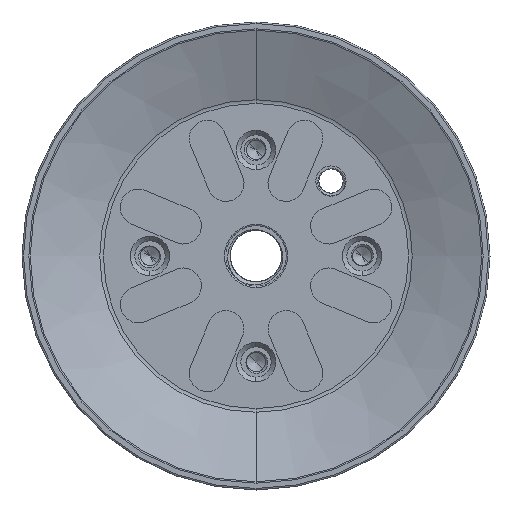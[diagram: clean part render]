
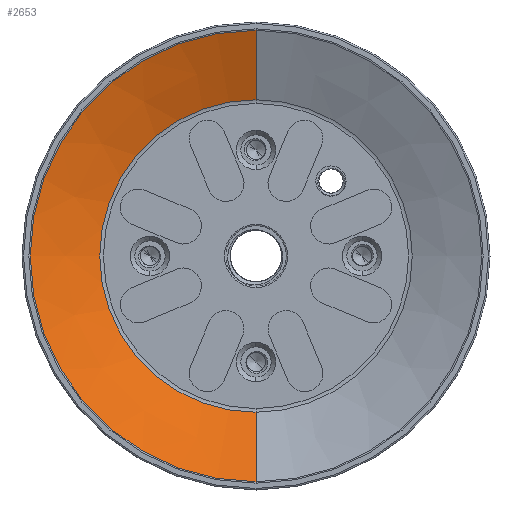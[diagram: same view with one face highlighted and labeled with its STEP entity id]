
A CAD part, front view. The second image highlights one B-rep face of the part: STEP entity #2653.
In plain terms, the highlighted conical face has half-angle 67.168 degrees and reference radius 25.788 mm.
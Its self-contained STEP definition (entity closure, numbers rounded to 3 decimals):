
#1593 = CARTESIAN_POINT ( 'NONE',  ( 0., -12.953, 37.264 ) ) ;
#1695 = ORIENTED_EDGE ( 'NONE', *, *, #10285, .T. ) ;
#2653 = ADVANCED_FACE ( 'NONE', ( #22131 ), #15477, .F. ) ;
#3513 = LINE ( 'NONE', #5591, #12386 ) ;
#3928 = VERTEX_POINT ( 'NONE', #1593 ) ;
#4260 = AXIS2_PLACEMENT_3D ( 'NONE', #12142, #20062, #4324 ) ;
#4324 = DIRECTION ( 'NONE',  ( 0., 0., -1. ) ) ;
#5591 = CARTESIAN_POINT ( 'NONE',  ( 0., -8.121, -25.788 ) ) ;
#5809 = DIRECTION ( 'NONE',  ( 0., -0.388, 0.922 ) ) ;
#6969 = VERTEX_POINT ( 'NONE', #9077 ) ;
#7724 = CARTESIAN_POINT ( 'NONE',  ( 0., -8.121, 25.788 ) ) ;
#7760 = CARTESIAN_POINT ( 'NONE',  ( 0., -8.121, 25.788 ) ) ;
#7785 = DIRECTION ( 'NONE',  ( 0., 1., 0. ) ) ;
#8020 = LINE ( 'NONE', #7760, #20840 ) ;
#8222 = VERTEX_POINT ( 'NONE', #16778 ) ;
#9077 = CARTESIAN_POINT ( 'NONE',  ( 0., -8.121, -25.788 ) ) ;
#9952 = CIRCLE ( 'NONE', #14927, 37.264 ) ;
#10285 = EDGE_CURVE ( 'NONE', #6969, #24235, #14306, .T. ) ;
#11234 = ORIENTED_EDGE ( 'NONE', *, *, #17795, .F. ) ;
#11739 = ORIENTED_EDGE ( 'NONE', *, *, #22688, .F. ) ;
#12142 = CARTESIAN_POINT ( 'NONE',  ( 0., -8.121, 0. ) ) ;
#12386 = VECTOR ( 'NONE', #13523, 1000. ) ;
#13378 = DIRECTION ( 'NONE',  ( 0., 0., 1. ) ) ;
#13523 = DIRECTION ( 'NONE',  ( 0., -0.388, -0.922 ) ) ;
#14058 = EDGE_LOOP ( 'NONE', ( #1695, #18731, #11739, #11234 ) ) ;
#14306 = CIRCLE ( 'NONE', #18869, 25.788 ) ;
#14927 = AXIS2_PLACEMENT_3D ( 'NONE', #15579, #7785, #13378 ) ;
#15055 = DIRECTION ( 'NONE',  ( 0., 1., 0. ) ) ;
#15477 = CONICAL_SURFACE ( 'NONE', #4260, 25.788, 1.172 ) ;
#15579 = CARTESIAN_POINT ( 'NONE',  ( 0., -12.953, 0. ) ) ;
#16778 = CARTESIAN_POINT ( 'NONE',  ( 0., -12.953, -37.264 ) ) ;
#17603 = DIRECTION ( 'NONE',  ( 0., 0., 1. ) ) ;
#17795 = EDGE_CURVE ( 'NONE', #6969, #8222, #3513, .T. ) ;
#18731 = ORIENTED_EDGE ( 'NONE', *, *, #25218, .T. ) ;
#18869 = AXIS2_PLACEMENT_3D ( 'NONE', #23449, #15055, #17603 ) ;
#20062 = DIRECTION ( 'NONE',  ( 0., -1., 0. ) ) ;
#20840 = VECTOR ( 'NONE', #5809, 1000. ) ;
#22131 = FACE_OUTER_BOUND ( 'NONE', #14058, .T. ) ;
#22688 = EDGE_CURVE ( 'NONE', #8222, #3928, #9952, .T. ) ;
#23449 = CARTESIAN_POINT ( 'NONE',  ( 0., -8.121, 0. ) ) ;
#24235 = VERTEX_POINT ( 'NONE', #7724 ) ;
#25218 = EDGE_CURVE ( 'NONE', #24235, #3928, #8020, .T. ) ;
